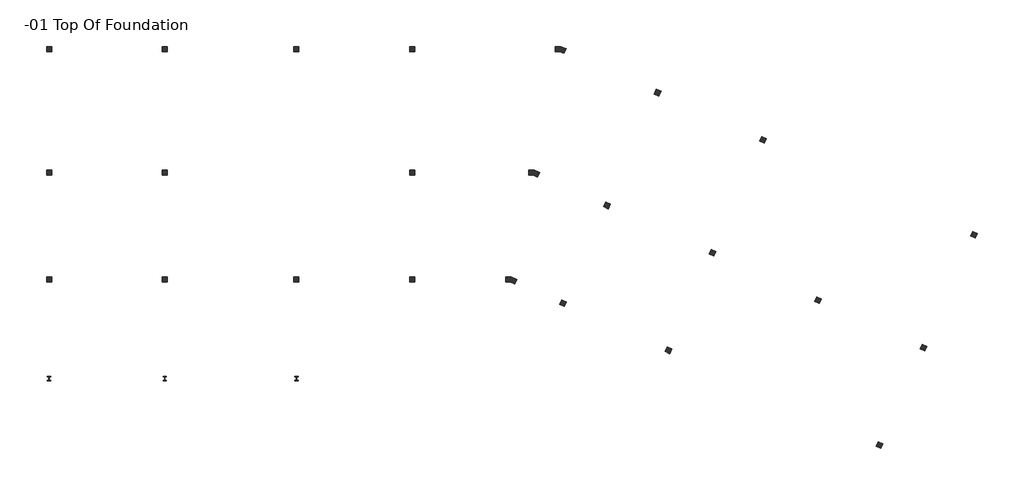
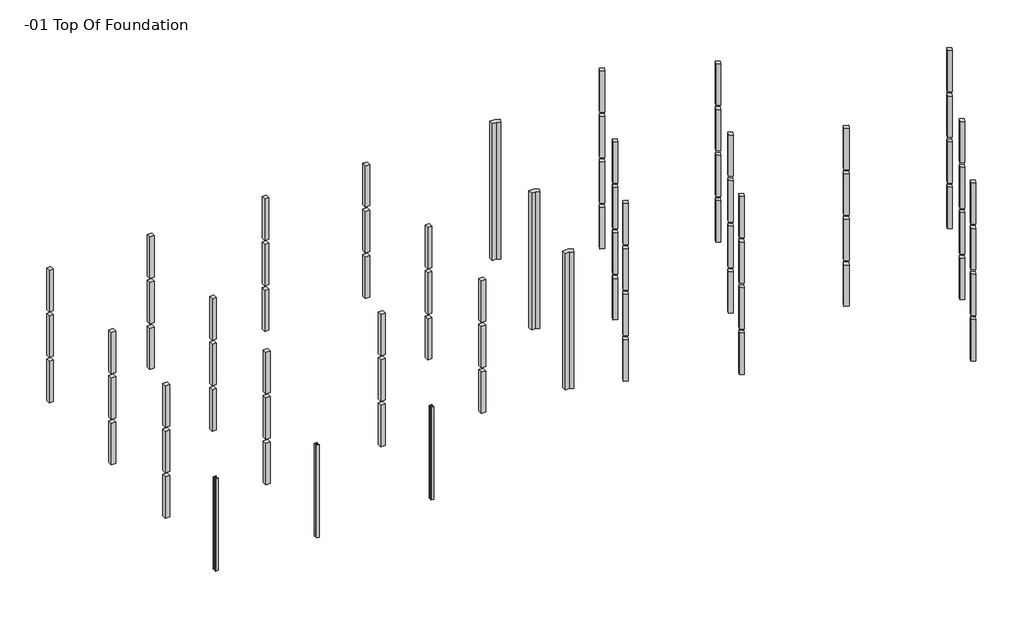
# One storey: 27 columns.
"""IFC4 building model written with IfcOpenShell, lengths in millimetres."""

from ifc_helpers import new_model, si_unit, frame, origin, origin_with_axes, place, context, project, spatial, polyline, outline, extrude, faceted_brep, transform, mapped, element, save
from components import w_shapes_column_w10x33_60aa4128

model = new_model("IFC4")

# Units and contexts
model_context = context("Model", 3, world=origin())
ifc_project = project(units=[si_unit("LENGTHUNIT", "METRE", prefix="MILLI")], contexts=[model_context])

# Site, building, storey
site = spatial("IfcSite", under=ifc_project)
building = spatial("IfcBuilding", under=site)
storey = spatial("IfcBuildingStorey", under=building, Name="-01 Top Of Foundation", Elevation=-304.8)

# Columns
placement = place(None, origin())
element("IfcColumn", 1, ObjectType="Cranked Corner Column : CC1", at=placement, inside=storey, context=model_context, shape_type="Brep", body=[
    faceted_brep([(30695.9673107, 152.4, -304.8), (31033.3910427, 152.4, -304.8), (31341.2512132, 14.124878, -304.8), (31216.3575546, -263.9121951, -304.8), (30968.1435788, -152.4, -304.8), (30695.9673107, -152.4, -304.8), (30695.9673107, 152.4, 9753.6), (31033.3910427, 152.4, 9753.6), (31341.2512132, 14.124878, 9753.6), (31341.2512132, 14.124878, 6705.6), (31341.2512132, 14.124878, 6400.8), (31341.2512132, 14.124878, 3352.8), (31341.2512132, 14.124878, 3048.0), (31341.2512132, 14.124878, 0.0), (31216.3575546, -263.9121951, 9753.6), (31216.3575546, -263.9121951, 6705.6), (31216.3575546, -263.9121951, 6400.8), (31216.3575546, -263.9121951, 3352.8), (31216.3575546, -263.9121951, 3048.0), (31216.3575546, -263.9121951, 0.0), (30968.1435788, -152.4, 9753.6), (30695.9673107, -152.4, 9753.6)], [[[0, 1, 2, 3, 4, 5]], [[6, 7, 1, 0]], [[7, 8, 9, 10, 11, 12, 13, 2, 1]], [[8, 14, 15, 16, 17, 18, 19, 3, 2, 13, 12, 11, 10, 9]], [[14, 20, 4, 3, 19, 18, 17, 16, 15]], [[20, 21, 5, 4]], [[21, 6, 0, 5]], [[6, 21, 20, 14, 8, 7]]]),
])
element("IfcColumn", 2, ObjectType="Cranked Corner Column : CC1", at=placement, inside=storey, context=model_context, shape_type="Brep", body=[
    faceted_brep([(29087.603025, -7353.3, -304.8), (29425.026757, -7353.3, -304.8), (29732.8869275, -7491.575122, -304.8), (29607.9932689, -7769.6121951, -304.8), (29359.7792931, -7658.1, -304.8), (29087.603025, -7658.1, -304.8), (29087.603025, -7353.3, 9753.6), (29425.026757, -7353.3, 9753.6), (29732.8869275, -7491.575122, 9753.6), (29732.8869275, -7491.575122, 6705.6), (29732.8869275, -7491.575122, 6400.8), (29732.8869275, -7491.575122, 3352.8), (29732.8869275, -7491.575122, 3048.0), (29732.8869275, -7491.575122, 0.0), (29607.9932689, -7769.6121951, 9753.6), (29607.9932689, -7769.6121951, 6705.6), (29607.9932689, -7769.6121951, 6400.8), (29607.9932689, -7769.6121951, 3352.8), (29607.9932689, -7769.6121951, 3048.0), (29607.9932689, -7769.6121951, 0.0), (29359.7792931, -7658.1, 9753.6), (29087.603025, -7658.1, 9753.6)], [[[0, 1, 2, 3, 4, 5]], [[6, 7, 1, 0]], [[7, 8, 9, 10, 11, 12, 13, 2, 1]], [[8, 14, 15, 16, 17, 18, 19, 3, 2, 13, 12, 11, 10, 9]], [[14, 20, 4, 3, 19, 18, 17, 16, 15]], [[20, 21, 5, 4]], [[21, 6, 0, 5]], [[6, 21, 20, 14, 8, 7]]]),
])
element("IfcColumn", 3, ObjectType="Cranked Corner Column : CC1", at=placement, inside=storey, context=model_context, shape_type="Brep", body=[
    faceted_brep([(27696.953025, -13843.0, -304.8), (28034.376757, -13843.0, -304.8), (28342.2369275, -13981.275122, -304.8), (28217.3432689, -14259.3121951, -304.8), (27969.1292931, -14147.8, -304.8), (27696.953025, -14147.8, -304.8), (27696.953025, -13843.0, 9753.6), (28034.376757, -13843.0, 9753.6), (28342.2369275, -13981.275122, 9753.6), (28342.2369275, -13981.275122, 6705.6), (28342.2369275, -13981.275122, 6400.8), (28342.2369275, -13981.275122, 3352.8), (28342.2369275, -13981.275122, 3048.0), (28342.2369275, -13981.275122, 0.0), (28217.3432689, -14259.3121951, 9753.6), (28217.3432689, -14259.3121951, 6705.6), (28217.3432689, -14259.3121951, 6400.8), (28217.3432689, -14259.3121951, 3352.8), (28217.3432689, -14259.3121951, 3048.0), (28217.3432689, -14259.3121951, 0.0), (27969.1292931, -14147.8, 9753.6), (27696.953025, -14147.8, 9753.6)], [[[0, 1, 2, 3, 4, 5]], [[6, 7, 1, 0]], [[7, 8, 9, 10, 11, 12, 13, 2, 1]], [[8, 14, 15, 16, 17, 18, 19, 3, 2, 13, 12, 11, 10, 9]], [[14, 20, 4, 3, 19, 18, 17, 16, 15]], [[20, 21, 5, 4]], [[21, 6, 0, 5]], [[6, 21, 20, 14, 8, 7]]]),
])
element("IfcColumn", 4, ObjectType="Concrete-Rectangular-Column : 12 x 12", at=placement, inside=storey, context=model_context, shape_type="SweptSolid", body=[
    extrude(outline(polyline([(152.4, 152.4), (152.4, -152.4), (-152.4, -152.4), (-152.4, 152.4), (152.4, 152.4)])), frame((0.0, 0.0, 6705.6), z_axis=(0.0, 0.0, 1.0), x_axis=(1.0, 0.0, 0.0)), (0.0, 0.0, 1.0), 3048.0),
    extrude(outline(polyline([(152.4, 152.4), (152.4, -152.4), (-152.4, -152.4), (-152.4, 152.4), (152.4, 152.4)])), origin_with_axes(), (0.0, 0.0, 1.0), 3048.0),
    extrude(outline(polyline([(152.4, 152.4), (152.4, -152.4), (-152.4, -152.4), (-152.4, 152.4), (152.4, 152.4)])), frame((0.0, 0.0, 3352.8), z_axis=(0.0, 0.0, 1.0), x_axis=(1.0, 0.0, 0.0)), (0.0, 0.0, 1.0), 3048.0),
])
element("IfcColumn", 5, ObjectType="Concrete-Rectangular-Column : 12 x 12", at=placement, inside=storey, context=model_context, shape_type="SweptSolid", body=[
    extrude(outline(polyline([(7162.8, 152.4), (7162.8, -152.4), (6858.0, -152.4), (6858.0, 152.4), (7162.8, 152.4)])), frame((0.0, 0.0, 6705.6), z_axis=(0.0, 0.0, 1.0), x_axis=(1.0, 0.0, 0.0)), (0.0, 0.0, 1.0), 3048.0),
    extrude(outline(polyline([(7162.8, 152.4), (7162.8, -152.4), (6858.0, -152.4), (6858.0, 152.4), (7162.8, 152.4)])), origin_with_axes(), (0.0, 0.0, 1.0), 3048.0),
    extrude(outline(polyline([(7162.8, 152.4), (7162.8, -152.4), (6858.0, -152.4), (6858.0, 152.4), (7162.8, 152.4)])), frame((0.0, 0.0, 3352.8), z_axis=(0.0, 0.0, 1.0), x_axis=(1.0, 0.0, 0.0)), (0.0, 0.0, 1.0), 3048.0),
])
element("IfcColumn", 6, ObjectType="Concrete-Rectangular-Column : 12 x 12", at=placement, inside=storey, context=model_context, shape_type="SweptSolid", body=[
    extrude(outline(polyline([(15151.1, 152.4), (15151.1, -152.4), (14846.3, -152.4), (14846.3, 152.4), (15151.1, 152.4)])), frame((0.0, 0.0, 6705.6), z_axis=(0.0, 0.0, 1.0), x_axis=(1.0, 0.0, 0.0)), (0.0, 0.0, 1.0), 3048.0),
    extrude(outline(polyline([(15151.1, 152.4), (15151.1, -152.4), (14846.3, -152.4), (14846.3, 152.4), (15151.1, 152.4)])), origin_with_axes(), (0.0, 0.0, 1.0), 3048.0),
    extrude(outline(polyline([(15151.1, 152.4), (15151.1, -152.4), (14846.3, -152.4), (14846.3, 152.4), (15151.1, 152.4)])), frame((0.0, 0.0, 3352.8), z_axis=(0.0, 0.0, 1.0), x_axis=(1.0, 0.0, 0.0)), (0.0, 0.0, 1.0), 3048.0),
])
element("IfcColumn", 7, ObjectType="Concrete-Rectangular-Column : 12 x 12", at=placement, inside=storey, context=model_context, shape_type="SweptSolid", body=[
    extrude(outline(polyline([(22161.5, 152.4), (22161.5, -152.4), (21856.7, -152.4), (21856.7, 152.4), (22161.5, 152.4)])), frame((0.0, 0.0, 6705.6), z_axis=(0.0, 0.0, 1.0), x_axis=(1.0, 0.0, 0.0)), (0.0, 0.0, 1.0), 3048.0),
    extrude(outline(polyline([(22161.5, 152.4), (22161.5, -152.4), (21856.7, -152.4), (21856.7, 152.4), (22161.5, 152.4)])), origin_with_axes(), (0.0, 0.0, 1.0), 3048.0),
    extrude(outline(polyline([(22161.5, 152.4), (22161.5, -152.4), (21856.7, -152.4), (21856.7, 152.4), (22161.5, 152.4)])), frame((0.0, 0.0, 3352.8), z_axis=(0.0, 0.0, 1.0), x_axis=(1.0, 0.0, 0.0)), (0.0, 0.0, 1.0), 3048.0),
])
element("IfcColumn", 8, ObjectType="Concrete-Rectangular-Column : 12 x 12", at=placement, inside=storey, context=model_context, shape_type="SweptSolid", body=[
    extrude(outline(polyline([(22161.5, -7353.3), (22161.5, -7658.1), (21856.7, -7658.1), (21856.7, -7353.3), (22161.5, -7353.3)])), frame((0.0, 0.0, 6705.6), z_axis=(0.0, 0.0, 1.0), x_axis=(1.0, 0.0, 0.0)), (0.0, 0.0, 1.0), 3048.0),
    extrude(outline(polyline([(22161.5, -7353.3), (22161.5, -7658.1), (21856.7, -7658.1), (21856.7, -7353.3), (22161.5, -7353.3)])), origin_with_axes(), (0.0, 0.0, 1.0), 3048.0),
    extrude(outline(polyline([(22161.5, -7353.3), (22161.5, -7658.1), (21856.7, -7658.1), (21856.7, -7353.3), (22161.5, -7353.3)])), frame((0.0, 0.0, 3352.8), z_axis=(0.0, 0.0, 1.0), x_axis=(1.0, 0.0, 0.0)), (0.0, 0.0, 1.0), 3048.0),
])
element("IfcColumn", 9, ObjectType="Concrete-Rectangular-Column : 12 x 12", at=placement, inside=storey, context=model_context, shape_type="SweptSolid", body=[
    extrude(outline(polyline([(7162.8, -7353.3), (7162.8, -7658.1), (6858.0, -7658.1), (6858.0, -7353.3), (7162.8, -7353.3)])), frame((0.0, 0.0, 6705.6), z_axis=(0.0, 0.0, 1.0), x_axis=(1.0, 0.0, 0.0)), (0.0, 0.0, 1.0), 3048.0),
    extrude(outline(polyline([(7162.8, -7353.3), (7162.8, -7658.1), (6858.0, -7658.1), (6858.0, -7353.3), (7162.8, -7353.3)])), origin_with_axes(), (0.0, 0.0, 1.0), 3048.0),
    extrude(outline(polyline([(7162.8, -7353.3), (7162.8, -7658.1), (6858.0, -7658.1), (6858.0, -7353.3), (7162.8, -7353.3)])), frame((0.0, 0.0, 3352.8), z_axis=(0.0, 0.0, 1.0), x_axis=(1.0, 0.0, 0.0)), (0.0, 0.0, 1.0), 3048.0),
])
element("IfcColumn", 10, ObjectType="Concrete-Rectangular-Column : 12 x 12", at=placement, inside=storey, context=model_context, shape_type="SweptSolid", body=[
    extrude(outline(polyline([(152.4, -7353.3), (152.4, -7658.1), (-152.4, -7658.1), (-152.4, -7353.3), (152.4, -7353.3)])), frame((0.0, 0.0, 6705.6), z_axis=(0.0, 0.0, 1.0), x_axis=(1.0, 0.0, 0.0)), (0.0, 0.0, 1.0), 3048.0),
    extrude(outline(polyline([(152.4, -7353.3), (152.4, -7658.1), (-152.4, -7658.1), (-152.4, -7353.3), (152.4, -7353.3)])), origin_with_axes(), (0.0, 0.0, 1.0), 3048.0),
    extrude(outline(polyline([(152.4, -7353.3), (152.4, -7658.1), (-152.4, -7658.1), (-152.4, -7353.3), (152.4, -7353.3)])), frame((0.0, 0.0, 3352.8), z_axis=(0.0, 0.0, 1.0), x_axis=(1.0, 0.0, 0.0)), (0.0, 0.0, 1.0), 3048.0),
])
element("IfcColumn", 11, ObjectType="Concrete-Rectangular-Column : 12 x 12", at=placement, inside=storey, context=model_context, shape_type="SweptSolid", body=[
    extrude(outline(polyline([(152.4, -13843.0), (152.4, -14147.8), (-152.4, -14147.8), (-152.4, -13843.0), (152.4, -13843.0)])), frame((0.0, 0.0, 6705.6), z_axis=(0.0, 0.0, 1.0), x_axis=(1.0, 0.0, 0.0)), (0.0, 0.0, 1.0), 3048.0),
    extrude(outline(polyline([(152.4, -13843.0), (152.4, -14147.8), (-152.4, -14147.8), (-152.4, -13843.0), (152.4, -13843.0)])), origin_with_axes(), (0.0, 0.0, 1.0), 3048.0),
    extrude(outline(polyline([(152.4, -13843.0), (152.4, -14147.8), (-152.4, -14147.8), (-152.4, -13843.0), (152.4, -13843.0)])), frame((0.0, 0.0, 3352.8), z_axis=(0.0, 0.0, 1.0), x_axis=(1.0, 0.0, 0.0)), (0.0, 0.0, 1.0), 3048.0),
])
element("IfcColumn", 12, ObjectType="Concrete-Rectangular-Column : 12 x 12", at=placement, inside=storey, context=model_context, shape_type="SweptSolid", body=[
    extrude(outline(polyline([(15151.1, -13843.0), (15151.1, -14147.8), (14846.3, -14147.8), (14846.3, -13843.0), (15151.1, -13843.0)])), frame((0.0, 0.0, 6705.6), z_axis=(0.0, 0.0, 1.0), x_axis=(1.0, 0.0, 0.0)), (0.0, 0.0, 1.0), 3048.0),
    extrude(outline(polyline([(15151.1, -13843.0), (15151.1, -14147.8), (14846.3, -14147.8), (14846.3, -13843.0), (15151.1, -13843.0)])), origin_with_axes(), (0.0, 0.0, 1.0), 3048.0),
    extrude(outline(polyline([(15151.1, -13843.0), (15151.1, -14147.8), (14846.3, -14147.8), (14846.3, -13843.0), (15151.1, -13843.0)])), frame((0.0, 0.0, 3352.8), z_axis=(0.0, 0.0, 1.0), x_axis=(1.0, 0.0, 0.0)), (0.0, 0.0, 1.0), 3048.0),
])
element("IfcColumn", 13, ObjectType="Concrete-Rectangular-Column : 12 x 12", at=placement, inside=storey, context=model_context, shape_type="SweptSolid", body=[
    extrude(outline(polyline([(22161.5, -13843.0), (22161.5, -14147.8), (21856.7, -14147.8), (21856.7, -13843.0), (22161.5, -13843.0)])), frame((0.0, 0.0, 6705.6), z_axis=(0.0, 0.0, 1.0), x_axis=(1.0, 0.0, 0.0)), (0.0, 0.0, 1.0), 3048.0),
    extrude(outline(polyline([(22161.5, -13843.0), (22161.5, -14147.8), (21856.7, -14147.8), (21856.7, -13843.0), (22161.5, -13843.0)])), origin_with_axes(), (0.0, 0.0, 1.0), 3048.0),
    extrude(outline(polyline([(22161.5, -13843.0), (22161.5, -14147.8), (21856.7, -14147.8), (21856.7, -13843.0), (22161.5, -13843.0)])), frame((0.0, 0.0, 3352.8), z_axis=(0.0, 0.0, 1.0), x_axis=(1.0, 0.0, 0.0)), (0.0, 0.0, 1.0), 3048.0),
])
element("IfcColumn", 14, ObjectType="Concrete-Rectangular-Column : 12 x 12", at=placement, inside=storey, context=model_context, shape_type="SweptSolid", body=[
    extrude(outline(polyline([(7162.8, -13843.0), (7162.8, -14147.8), (6858.0, -14147.8), (6858.0, -13843.0), (7162.8, -13843.0)])), frame((0.0, 0.0, 6705.6), z_axis=(0.0, 0.0, 1.0), x_axis=(1.0, 0.0, 0.0)), (0.0, 0.0, 1.0), 3048.0),
    extrude(outline(polyline([(7162.8, -13843.0), (7162.8, -14147.8), (6858.0, -14147.8), (6858.0, -13843.0), (7162.8, -13843.0)])), origin_with_axes(), (0.0, 0.0, 1.0), 3048.0),
    extrude(outline(polyline([(7162.8, -13843.0), (7162.8, -14147.8), (6858.0, -14147.8), (6858.0, -13843.0), (7162.8, -13843.0)])), frame((0.0, 0.0, 3352.8), z_axis=(0.0, 0.0, 1.0), x_axis=(1.0, 0.0, 0.0)), (0.0, 0.0, 1.0), 3048.0),
])
element("IfcColumn", 15, ObjectType="Concrete-Rectangular-Column : 12 x 12", at=placement, inside=storey, context=model_context, shape_type="SweptSolid", body=[
    extrude(outline(polyline([(36820.8985303, -2447.3209756), (37098.9356034, -2572.2146341), (36974.0419449, -2850.2517073), (36696.0048717, -2725.3580488), (36820.8985303, -2447.3209756)])), frame((0.0, 0.0, 10058.4), z_axis=(0.0, 0.0, 1.0), x_axis=(1.0, 0.0, 0.0)), (0.0, 0.0, 1.0), 3048.0),
    extrude(outline(polyline([(36820.8985303, -2447.3209756), (37098.9356034, -2572.2146341), (36974.0419449, -2850.2517073), (36696.0048717, -2725.3580488), (36820.8985303, -2447.3209756)])), origin_with_axes(), (0.0, 0.0, 1.0), 3048.0),
    extrude(outline(polyline([(36820.8985303, -2447.3209756), (37098.9356034, -2572.2146341), (36974.0419449, -2850.2517073), (36696.0048717, -2725.3580488), (36820.8985303, -2447.3209756)])), frame((0.0, 0.0, 3352.8), z_axis=(0.0, 0.0, 1.0), x_axis=(1.0, 0.0, 0.0)), (0.0, 0.0, 1.0), 3048.0),
    extrude(outline(polyline([(36820.8985303, -2447.3209756), (37098.9356034, -2572.2146341), (36974.0419449, -2850.2517073), (36696.0048717, -2725.3580488), (36820.8985303, -2447.3209756)])), frame((0.0, 0.0, 6705.6), z_axis=(0.0, 0.0, 1.0), x_axis=(1.0, 0.0, 0.0)), (0.0, 0.0, 1.0), 3048.0),
])
element("IfcColumn", 16, ObjectType="Concrete-Rectangular-Column : 12 x 12", at=placement, inside=storey, context=model_context, shape_type="SweptSolid", body=[
    extrude(outline(polyline([(43215.7512132, -5319.875122), (43493.7882864, -5444.7687805), (43368.8946278, -5722.8058537), (43090.8575546, -5597.9121951), (43215.7512132, -5319.875122)])), frame((0.0, 0.0, 10058.4), z_axis=(0.0, 0.0, 1.0), x_axis=(1.0, 0.0, 0.0)), (0.0, 0.0, 1.0), 3048.0),
    extrude(outline(polyline([(43215.7512132, -5319.875122), (43493.7882864, -5444.7687805), (43368.8946278, -5722.8058537), (43090.8575546, -5597.9121951), (43215.7512132, -5319.875122)])), origin_with_axes(), (0.0, 0.0, 1.0), 3048.0),
    extrude(outline(polyline([(43215.7512132, -5319.875122), (43493.7882864, -5444.7687805), (43368.8946278, -5722.8058537), (43090.8575546, -5597.9121951), (43215.7512132, -5319.875122)])), frame((0.0, 0.0, 3352.8), z_axis=(0.0, 0.0, 1.0), x_axis=(1.0, 0.0, 0.0)), (0.0, 0.0, 1.0), 3048.0),
    extrude(outline(polyline([(43215.7512132, -5319.875122), (43493.7882864, -5444.7687805), (43368.8946278, -5722.8058537), (43090.8575546, -5597.9121951), (43215.7512132, -5319.875122)])), frame((0.0, 0.0, 6705.6), z_axis=(0.0, 0.0, 1.0), x_axis=(1.0, 0.0, 0.0)), (0.0, 0.0, 1.0), 3048.0),
])
element("IfcColumn", 17, ObjectType="Concrete-Rectangular-Column : 12 x 12", at=placement, inside=storey, context=model_context, shape_type="SweptSolid", body=[
    extrude(outline(polyline([(56005.456579, -11064.9834146), (56283.4936522, -11189.8770732), (56158.5999937, -11467.9141463), (55880.5629205, -11343.0204878), (56005.456579, -11064.9834146)])), frame((0.0, 0.0, 10058.4), z_axis=(0.0, 0.0, 1.0), x_axis=(1.0, 0.0, 0.0)), (0.0, 0.0, 1.0), 3048.0),
    extrude(outline(polyline([(56005.456579, -11064.9834146), (56283.4936522, -11189.8770732), (56158.5999937, -11467.9141463), (55880.5629205, -11343.0204878), (56005.456579, -11064.9834146)])), origin_with_axes(), (0.0, 0.0, 1.0), 3048.0),
    extrude(outline(polyline([(56005.456579, -11064.9834146), (56283.4936522, -11189.8770732), (56158.5999937, -11467.9141463), (55880.5629205, -11343.0204878), (56005.456579, -11064.9834146)])), frame((0.0, 0.0, 3352.8), z_axis=(0.0, 0.0, 1.0), x_axis=(1.0, 0.0, 0.0)), (0.0, 0.0, 1.0), 3048.0),
    extrude(outline(polyline([(56005.456579, -11064.9834146), (56283.4936522, -11189.8770732), (56158.5999937, -11467.9141463), (55880.5629205, -11343.0204878), (56005.456579, -11064.9834146)])), frame((0.0, 0.0, 6705.6), z_axis=(0.0, 0.0, 1.0), x_axis=(1.0, 0.0, 0.0)), (0.0, 0.0, 1.0), 3048.0),
])
element("IfcColumn", 18, ObjectType="Concrete-Rectangular-Column : 12 x 12", at=placement, inside=storey, context=model_context, shape_type="SweptSolid", body=[
    extrude(outline(polyline([(52929.9502376, -17911.6463415), (53207.9873107, -18036.54), (53083.0936522, -18314.5770732), (52805.056579, -18189.6834146), (52929.9502376, -17911.6463415)])), frame((0.0, 0.0, 10058.4), z_axis=(0.0, 0.0, 1.0), x_axis=(1.0, 0.0, 0.0)), (0.0, 0.0, 1.0), 3048.0),
    extrude(outline(polyline([(52929.9502376, -17911.6463415), (53207.9873107, -18036.54), (53083.0936522, -18314.5770732), (52805.056579, -18189.6834146), (52929.9502376, -17911.6463415)])), origin_with_axes(), (0.0, 0.0, 1.0), 3048.0),
    extrude(outline(polyline([(52929.9502376, -17911.6463415), (53207.9873107, -18036.54), (53083.0936522, -18314.5770732), (52805.056579, -18189.6834146), (52929.9502376, -17911.6463415)])), frame((0.0, 0.0, 3352.8), z_axis=(0.0, 0.0, 1.0), x_axis=(1.0, 0.0, 0.0)), (0.0, 0.0, 1.0), 3048.0),
    extrude(outline(polyline([(52929.9502376, -17911.6463415), (53207.9873107, -18036.54), (53083.0936522, -18314.5770732), (52805.056579, -18189.6834146), (52929.9502376, -17911.6463415)])), frame((0.0, 0.0, 6705.6), z_axis=(0.0, 0.0, 1.0), x_axis=(1.0, 0.0, 0.0)), (0.0, 0.0, 1.0), 3048.0),
])
element("IfcColumn", 19, ObjectType="Concrete-Rectangular-Column : 12 x 12", at=placement, inside=storey, context=model_context, shape_type="SweptSolid", body=[
    extrude(outline(polyline([(50270.7560912, -23831.5190244), (50548.7931644, -23956.4126829), (50423.8995059, -24234.4497561), (50145.8624327, -24109.5560976), (50270.7560912, -23831.5190244)])), frame((0.0, 0.0, 10058.4), z_axis=(0.0, 0.0, 1.0), x_axis=(1.0, 0.0, 0.0)), (0.0, 0.0, 1.0), 3048.0),
    extrude(outline(polyline([(50270.7560912, -23831.5190244), (50548.7931644, -23956.4126829), (50423.8995059, -24234.4497561), (50145.8624327, -24109.5560976), (50270.7560912, -23831.5190244)])), origin_with_axes(), (0.0, 0.0, 1.0), 3048.0),
    extrude(outline(polyline([(50270.7560912, -23831.5190244), (50548.7931644, -23956.4126829), (50423.8995059, -24234.4497561), (50145.8624327, -24109.5560976), (50270.7560912, -23831.5190244)])), frame((0.0, 0.0, 3352.8), z_axis=(0.0, 0.0, 1.0), x_axis=(1.0, 0.0, 0.0)), (0.0, 0.0, 1.0), 3048.0),
    extrude(outline(polyline([(50270.7560912, -23831.5190244), (50548.7931644, -23956.4126829), (50423.8995059, -24234.4497561), (50145.8624327, -24109.5560976), (50270.7560912, -23831.5190244)])), frame((0.0, 0.0, 6705.6), z_axis=(0.0, 0.0, 1.0), x_axis=(1.0, 0.0, 0.0)), (0.0, 0.0, 1.0), 3048.0),
])
element("IfcColumn", 20, ObjectType="Concrete-Rectangular-Column : 12 x 12", at=placement, inside=storey, context=model_context, shape_type="SweptSolid", body=[
    extrude(outline(polyline([(37481.0507254, -18086.4107317), (37759.0877985, -18211.3043902), (37634.19414, -18489.3414634), (37356.1570668, -18364.4478049), (37481.0507254, -18086.4107317)])), frame((0.0, 0.0, 10058.4), z_axis=(0.0, 0.0, 1.0), x_axis=(1.0, 0.0, 0.0)), (0.0, 0.0, 1.0), 3048.0),
    extrude(outline(polyline([(37481.0507254, -18086.4107317), (37759.0877985, -18211.3043902), (37634.19414, -18489.3414634), (37356.1570668, -18364.4478049), (37481.0507254, -18086.4107317)])), origin_with_axes(), (0.0, 0.0, 1.0), 3048.0),
    extrude(outline(polyline([(37481.0507254, -18086.4107317), (37759.0877985, -18211.3043902), (37634.19414, -18489.3414634), (37356.1570668, -18364.4478049), (37481.0507254, -18086.4107317)])), frame((0.0, 0.0, 3352.8), z_axis=(0.0, 0.0, 1.0), x_axis=(1.0, 0.0, 0.0)), (0.0, 0.0, 1.0), 3048.0),
    extrude(outline(polyline([(37481.0507254, -18086.4107317), (37759.0877985, -18211.3043902), (37634.19414, -18489.3414634), (37356.1570668, -18364.4478049), (37481.0507254, -18086.4107317)])), frame((0.0, 0.0, 6705.6), z_axis=(0.0, 0.0, 1.0), x_axis=(1.0, 0.0, 0.0)), (0.0, 0.0, 1.0), 3048.0),
])
element("IfcColumn", 21, ObjectType="Concrete-Rectangular-Column : 12 x 12", at=placement, inside=storey, context=model_context, shape_type="SweptSolid", body=[
    extrude(outline(polyline([(31086.1980425, -15213.8565854), (31364.2351156, -15338.7502439), (31239.3414571, -15616.7873171), (30961.3043839, -15491.8936585), (31086.1980425, -15213.8565854)])), frame((0.0, 0.0, 10058.4), z_axis=(0.0, 0.0, 1.0), x_axis=(1.0, 0.0, 0.0)), (0.0, 0.0, 1.0), 3048.0),
    extrude(outline(polyline([(31086.1980425, -15213.8565854), (31364.2351156, -15338.7502439), (31239.3414571, -15616.7873171), (30961.3043839, -15491.8936585), (31086.1980425, -15213.8565854)])), origin_with_axes(), (0.0, 0.0, 1.0), 3048.0),
    extrude(outline(polyline([(31086.1980425, -15213.8565854), (31364.2351156, -15338.7502439), (31239.3414571, -15616.7873171), (30961.3043839, -15491.8936585), (31086.1980425, -15213.8565854)])), frame((0.0, 0.0, 3352.8), z_axis=(0.0, 0.0, 1.0), x_axis=(1.0, 0.0, 0.0)), (0.0, 0.0, 1.0), 3048.0),
    extrude(outline(polyline([(31086.1980425, -15213.8565854), (31364.2351156, -15338.7502439), (31239.3414571, -15616.7873171), (30961.3043839, -15491.8936585), (31086.1980425, -15213.8565854)])), frame((0.0, 0.0, 6705.6), z_axis=(0.0, 0.0, 1.0), x_axis=(1.0, 0.0, 0.0)), (0.0, 0.0, 1.0), 3048.0),
])
element("IfcColumn", 22, ObjectType="Concrete-Rectangular-Column : 12 x 12", at=placement, inside=storey, context=model_context, shape_type="SweptSolid", body=[
    extrude(outline(polyline([(33745.3921888, -9293.9839024), (34023.429262, -9418.877561), (33898.5356034, -9696.9146341), (33620.4985303, -9572.0209756), (33745.3921888, -9293.9839024)])), frame((0.0, 0.0, 10058.4), z_axis=(0.0, 0.0, 1.0), x_axis=(1.0, 0.0, 0.0)), (0.0, 0.0, 1.0), 3048.0),
    extrude(outline(polyline([(33745.3921888, -9293.9839024), (34023.429262, -9418.877561), (33898.5356034, -9696.9146341), (33620.4985303, -9572.0209756), (33745.3921888, -9293.9839024)])), origin_with_axes(), (0.0, 0.0, 1.0), 3048.0),
    extrude(outline(polyline([(33745.3921888, -9293.9839024), (34023.429262, -9418.877561), (33898.5356034, -9696.9146341), (33620.4985303, -9572.0209756), (33745.3921888, -9293.9839024)])), frame((0.0, 0.0, 3352.8), z_axis=(0.0, 0.0, 1.0), x_axis=(1.0, 0.0, 0.0)), (0.0, 0.0, 1.0), 3048.0),
    extrude(outline(polyline([(33745.3921888, -9293.9839024), (34023.429262, -9418.877561), (33898.5356034, -9696.9146341), (33620.4985303, -9572.0209756), (33745.3921888, -9293.9839024)])), frame((0.0, 0.0, 6705.6), z_axis=(0.0, 0.0, 1.0), x_axis=(1.0, 0.0, 0.0)), (0.0, 0.0, 1.0), 3048.0),
])
element("IfcColumn", 23, ObjectType="Concrete-Rectangular-Column : 12 x 12", at=placement, inside=storey, context=model_context, shape_type="SweptSolid", body=[
    extrude(outline(polyline([(40140.2448717, -12166.5380488), (40418.2819449, -12291.4317073), (40293.3882864, -12569.4687805), (40015.3512132, -12444.575122), (40140.2448717, -12166.5380488)])), frame((0.0, 0.0, 10058.4), z_axis=(0.0, 0.0, 1.0), x_axis=(1.0, 0.0, 0.0)), (0.0, 0.0, 1.0), 3048.0),
    extrude(outline(polyline([(40140.2448717, -12166.5380488), (40418.2819449, -12291.4317073), (40293.3882864, -12569.4687805), (40015.3512132, -12444.575122), (40140.2448717, -12166.5380488)])), origin_with_axes(), (0.0, 0.0, 1.0), 3048.0),
    extrude(outline(polyline([(40140.2448717, -12166.5380488), (40418.2819449, -12291.4317073), (40293.3882864, -12569.4687805), (40015.3512132, -12444.575122), (40140.2448717, -12166.5380488)])), frame((0.0, 0.0, 3352.8), z_axis=(0.0, 0.0, 1.0), x_axis=(1.0, 0.0, 0.0)), (0.0, 0.0, 1.0), 3048.0),
    extrude(outline(polyline([(40140.2448717, -12166.5380488), (40418.2819449, -12291.4317073), (40293.3882864, -12569.4687805), (40015.3512132, -12444.575122), (40140.2448717, -12166.5380488)])), frame((0.0, 0.0, 6705.6), z_axis=(0.0, 0.0, 1.0), x_axis=(1.0, 0.0, 0.0)), (0.0, 0.0, 1.0), 3048.0),
])
element("IfcColumn", 24, ObjectType="Concrete-Rectangular-Column : 12 x 12", at=placement, inside=storey, context=model_context, shape_type="SweptSolid", body=[
    extrude(outline(polyline([(46535.0975546, -15039.0921951), (46813.1346278, -15163.9858537), (46688.2409693, -15442.0229268), (46410.2038961, -15317.1292683), (46535.0975546, -15039.0921951)])), frame((0.0, 0.0, 10058.4), z_axis=(0.0, 0.0, 1.0), x_axis=(1.0, 0.0, 0.0)), (0.0, 0.0, 1.0), 3048.0),
    extrude(outline(polyline([(46535.0975546, -15039.0921951), (46813.1346278, -15163.9858537), (46688.2409693, -15442.0229268), (46410.2038961, -15317.1292683), (46535.0975546, -15039.0921951)])), origin_with_axes(), (0.0, 0.0, 1.0), 3048.0),
    extrude(outline(polyline([(46535.0975546, -15039.0921951), (46813.1346278, -15163.9858537), (46688.2409693, -15442.0229268), (46410.2038961, -15317.1292683), (46535.0975546, -15039.0921951)])), frame((0.0, 0.0, 3352.8), z_axis=(0.0, 0.0, 1.0), x_axis=(1.0, 0.0, 0.0)), (0.0, 0.0, 1.0), 3048.0),
    extrude(outline(polyline([(46535.0975546, -15039.0921951), (46813.1346278, -15163.9858537), (46688.2409693, -15442.0229268), (46410.2038961, -15317.1292683), (46535.0975546, -15039.0921951)])), frame((0.0, 0.0, 6705.6), z_axis=(0.0, 0.0, 1.0), x_axis=(1.0, 0.0, 0.0)), (0.0, 0.0, 1.0), 3048.0),
])
w_shapes_column_w10x33_shape = w_shapes_column_w10x33_60aa4128(model_context)
element("IfcColumn", 25, ObjectType="W Shapes-Column : W10X33", at=placement, inside=storey, context=model_context, shape_type="MappedRepresentation", body=[
    mapped(w_shapes_column_w10x33_shape, transform((0.0, -20002.5, 0.0), x_axis=(1.0, 0.0, 0.0), y_axis=(0.0, 1.0, 0.0), z_axis=(0.0, 0.0, 1.0))),
])
element("IfcColumn", 26, ObjectType="W Shapes-Column : W10X33", at=placement, inside=storey, context=model_context, shape_type="MappedRepresentation", body=[
    mapped(w_shapes_column_w10x33_shape, transform((7010.4, -20002.5, 0.0), x_axis=(1.0, 0.0, 0.0), y_axis=(0.0, 1.0, 0.0), z_axis=(0.0, 0.0, 1.0))),
])
element("IfcColumn", 27, ObjectType="W Shapes-Column : W10X33", at=placement, inside=storey, context=model_context, shape_type="MappedRepresentation", body=[
    mapped(w_shapes_column_w10x33_shape, transform((14998.7, -20002.5, 0.0), x_axis=(1.0, 0.0, 0.0), y_axis=(0.0, 1.0, 0.0), z_axis=(0.0, 0.0, 1.0))),
])

save(model, "model.ifc")
